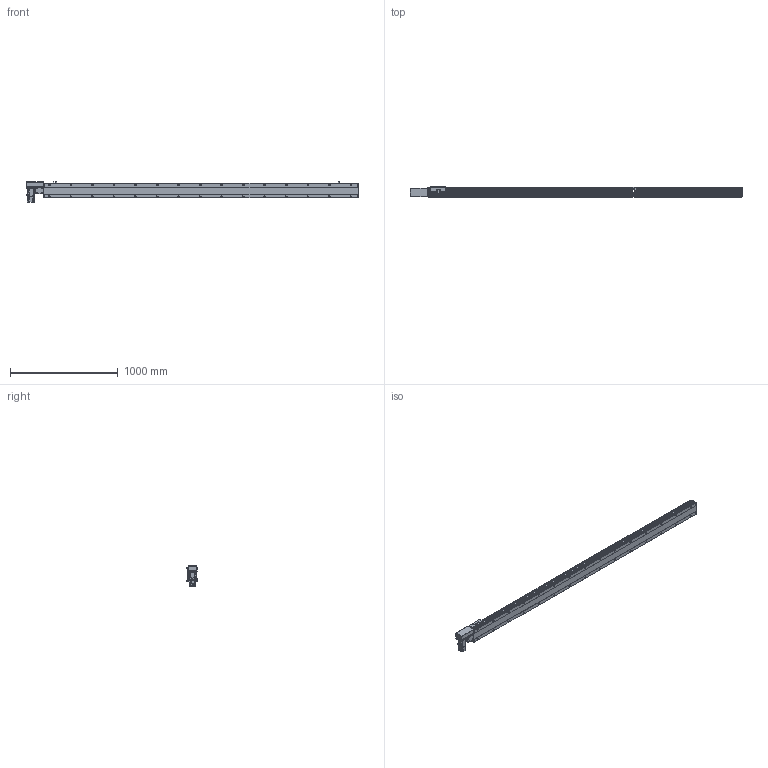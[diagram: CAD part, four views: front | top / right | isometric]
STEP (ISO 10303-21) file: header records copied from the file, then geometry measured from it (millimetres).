
FILE_DESCRIPTION( ( 'STEP AP214' ), '1' );
FILE_NAME( 'x:/temp/worker_6/temp/exporttempdir_5396_76_gPcDU/format_0/PBS140S-P40-S2650-R-T40-C1-N(0).stp', '2022-06-09T00:19:48', ( 'License CC BY-ND 4.0' ), ( 'CADENAS' ), ' ', 'PARTsolutions', ' ' );
FILE_SCHEMA( ( 'AUTOMOTIVE_DESIGN { 1 0 10303 214 1 1 1 1 }' ) );
Length unit declared in the file: millimetre
Products named in the file (7): PBS140S-P40-S2650-R-T40-C1-N(0); _PBS140S-S2650()_body; _PBS140ST-R_motors; _T40-p1; _PBS140S_sliser; _PBS140S_plant; _PBS140S_sensor
Assembly tree (8 placements, depth 2):
  PBS140S-P40-S2650-R-T40-C1-N(0)
    _PBS140S-S2650()_body
    _PBS140ST-R_motors
    _T40-p1
    _PBS140S_sliser
    _PBS140S_plant
    _PBS140S_sensor  x3
Bounding box: 3083 x 93 x 189.7 mm (x, y, z)
Volume: 14554458.2 mm3; surface area: 2448058.8 mm2
Topology: 8 solids, 8 shells, 1211 faces, 3191 edges, 2087 vertices
Faces by surface type: plane 744, cylinder 401, cone 56, sphere 8, torus 2
Full cylindrical faces by diameter (mm): 3.242 x4, 4 x2, 4.134 x4, 4.4 x8, 4.5 x2, 4.8 x4, 4.917 x38, 5.5 x7, 6 x2, 7 x32, 7.5 x8, 8 x12, 8.5 x4, 10.5 x30, 14 x1, 30 x2, 50 x2
Entity records: 44830 total; most frequent: CARTESIAN_POINT 7582, DIRECTION 5838, ORIENTED_EDGE 5482, EDGE_CURVE 2741, AXIS2_PLACEMENT_3D 2069, VERTEX_POINT 1921, LINE 1700, VECTOR 1700
